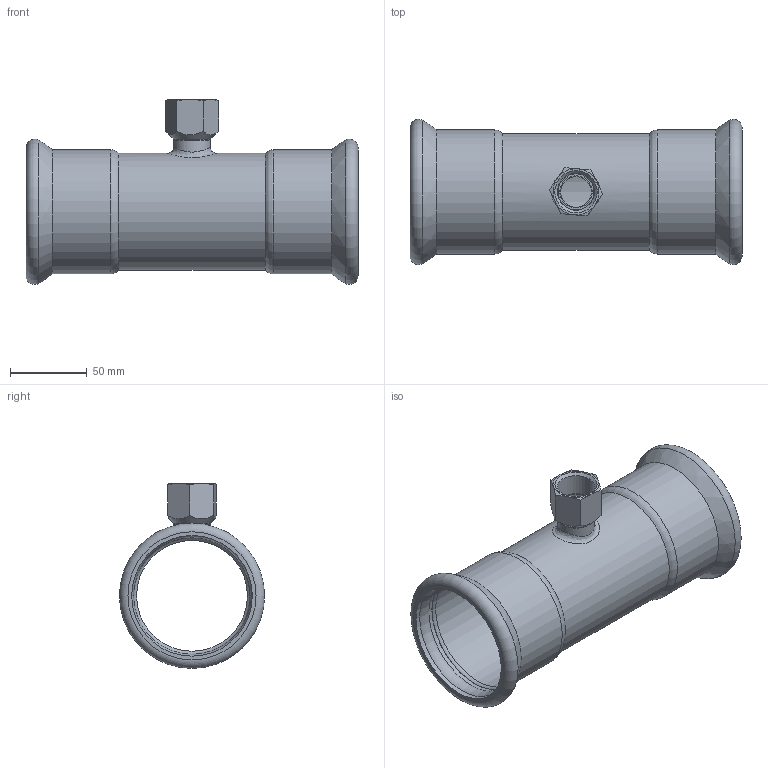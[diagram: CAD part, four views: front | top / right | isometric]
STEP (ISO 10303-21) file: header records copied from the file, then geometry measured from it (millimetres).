
FILE_DESCRIPTION(/* description */ ('TEE CON DERIVAZIONE FILETTATA FEMMINA 76,1x3/4"x76,1'),/* implementation_level */ '2;1');
FILE_NAME(/* name */ 'T:\A_ARTICOLI\ARTICOLI PRODOTTI_WEB\Articoli_STEELPRES_WEB\Temporary Step\389304076_Steelpres.ipt.step',/* time_stamp */ '2016-01-20T11:57:02+01:00',/* author */ ('Ghirlinghelli Diego'),/* organization */ (''),/* preprocessor_version */ 'ST-DEVELOPER v15.2',/* originating_system */ 'Autodesk Inventor 2014',/* authorisation */ 'R.M. S.p.A. si riserva a termini di legge la proprietà del presente disegno con divieto di riprodurlo o comunicarlo a terzi senza sua autorizzazione scritta');
FILE_SCHEMA (('AUTOMOTIVE_DESIGN { 1 0 10303 214 3 1 1 }'));
Length unit declared in the file: millimetre
Products named in the file (1): 389304076_Steelpres
Bounding box: 216 x 94.49 x 120.3 mm (x, y, z)
Volume: 153315.6 mm3; surface area: 115754 mm2
Topology: 1 solids, 1 shells, 58 faces, 139 edges, 86 vertices
Faces by surface type: cylinder 21, torus 11, cone 11, plane 11, bspline 4
Full cylindrical faces by diameter (mm): 20 x1, 21 x1, 23.48 x1, 24 x1, 24.117 x1, 72.1 x1, 76.1 x1, 76.7 x2, 78.5 x4, 80.7 x2
Entity records: 1794 total; most frequent: CARTESIAN_POINT 619, DIRECTION 242, ORIENTED_EDGE 192, AXIS2_PLACEMENT_3D 115, EDGE_LOOP 96, EDGE_CURVE 96, VERTEX_POINT 74, CIRCLE 60
